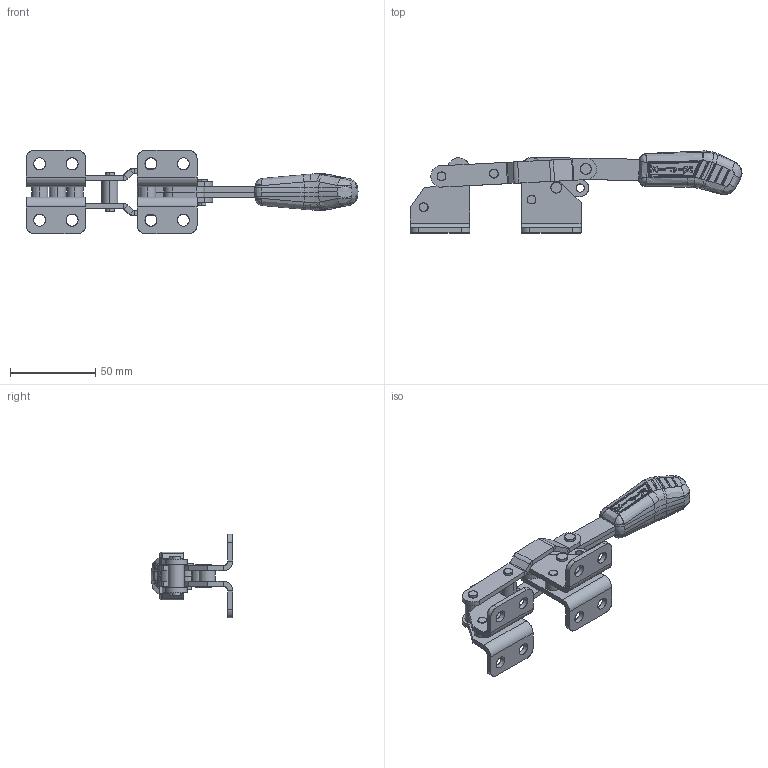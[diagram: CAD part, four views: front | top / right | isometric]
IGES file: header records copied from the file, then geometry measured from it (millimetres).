
Start section: SolidWorks IGES file using analytic representation for surfaces
Global section: file name: C:\Projetos\Grampos\KF-310\KF-310 D\KF-310 D.IGS; native system: SolidWorks 2013; preprocessor: SolidWorks 2013; author: Ricardo; date: 140822.133120; units: millimetre
Bounding box: 194.57 x 48.03 x 49 mm (x, y, z)
Surface area: 40614.9 mm2 (no closed solid volume)
Topology: 0 solids, 0 shells, 944 faces, 10631 edges, 10571 vertices
Faces by surface type: bspline 550, revolution 394
